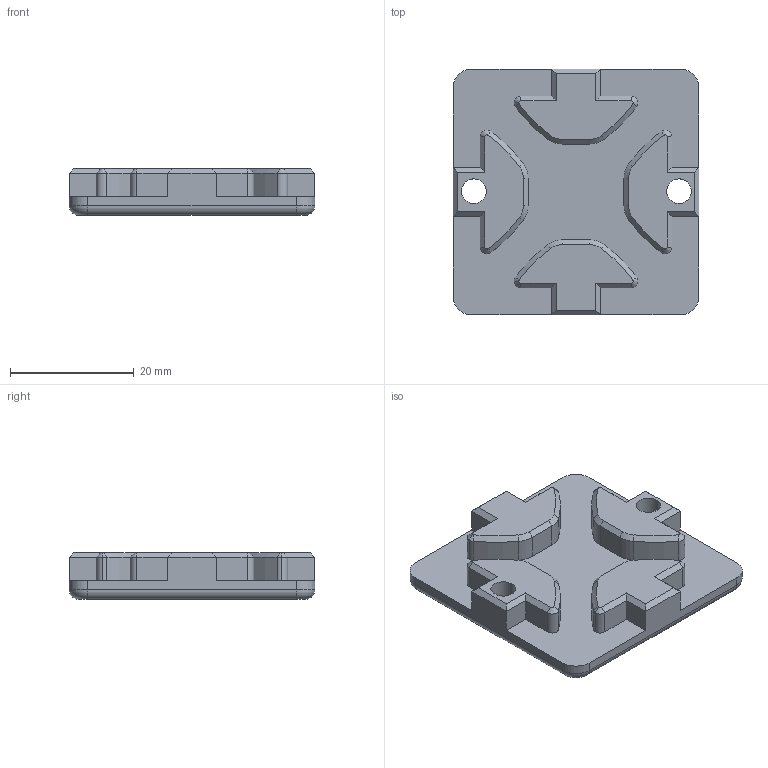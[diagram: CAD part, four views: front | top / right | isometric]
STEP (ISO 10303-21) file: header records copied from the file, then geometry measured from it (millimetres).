
FILE_DESCRIPTION (( 'STEP AP214' ), '1' );
FILE_NAME ('Soporte para chumacera.STEP', '2019-05-12T01:59:32', ( '' ), ( '' ), 'SwSTEP 2.0', 'SolidWorks 2018', '' );
FILE_SCHEMA (( 'AUTOMOTIVE_DESIGN' ));
Length unit declared in the file: millimetre
Products named in the file (1): Soporte para chumacera
Bounding box: 39.75 x 39.75 x 7.5 mm (x, y, z)
Volume: 7138.2 mm3; surface area: 4545.9 mm2
Topology: 1 solids, 1 shells, 122 faces, 308 edges, 186 vertices
Faces by surface type: plane 54, cylinder 38, cone 26, torus 4
Entity records: 3679 total; most frequent: DIRECTION 656, CARTESIAN_POINT 648, ORIENTED_EDGE 616, EDGE_CURVE 308, AXIS2_PLACEMENT_3D 229, LINE 198, VECTOR 198, VERTEX_POINT 186
